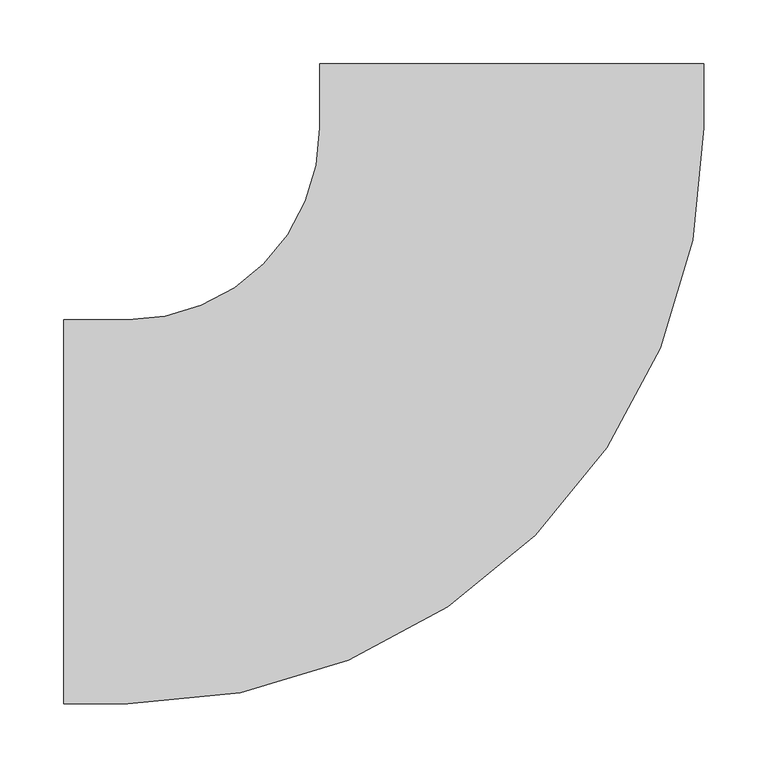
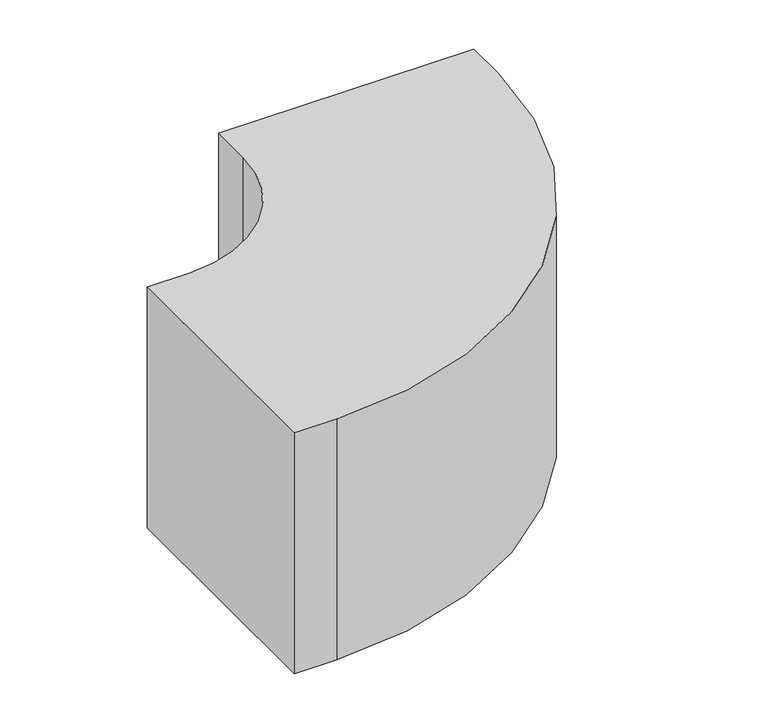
"""IFC4 building model written with IfcOpenShell, lengths in millimetres: duct fitting geometry, Отвод прямоугольного сечения : Стандартное."""

from ifc_helpers import new_model, si_unit, point, frame, frame_2d, origin, place, context, project, spatial, polyline, circle_curve, trimmed, segment, composite_curve, outline, extrude, source, transform, mapped, element, save


def duct_fitting_99cd3f61(model_context):
    return source(origin(), model_context, "Body", "SweptSolid", [
        extrude(outline(composite_curve([segment(polyline([(-350.0, -150.0), (-350.0, 150.0), (-300.0, 150.0)]), True, "CONTINUOUS"), segment(trimmed(circle_curve(frame_2d((-300.0, 300.0)), 150.0), [point((-300.0, 150.0))], [point((-150.0, 300.0))], True, "CARTESIAN"), True, "CONTINUOUS"), segment(polyline([(-150.0, 300.0), (-150.0, 350.0), (150.0, 350.0), (150.0, 300.0)]), True, "CONTINUOUS"), segment(trimmed(circle_curve(frame_2d((-300.0, 300.0)), 450.0), [point((150.0, 300.0))], [point((-300.0, -150.0))], False, "CARTESIAN"), True, "CONTINUOUS"), segment(polyline([(-300.0, -150.0), (-350.0, -150.0)]), True, "CONTINUOUS")], self_intersect=False)), frame((0.0, 0.0, -150.0), z_axis=(0.0, 0.0, 1.0), x_axis=(1.0, 0.0, 0.0)), (0.0, 0.0, 1.0), 300.0),
    ])


if __name__ == "__main__":
    model = new_model("IFC4")
    model_context = context("Model", 3, world=origin())
    ifc_project = project(units=[si_unit("LENGTHUNIT", "METRE", prefix="MILLI")], contexts=[model_context])
    site = spatial("IfcSite", under=ifc_project)
    building = spatial("IfcBuilding", under=site)
    placement = place(None, origin())
    duct_fitting_shape = duct_fitting_99cd3f61(model_context)
    element("IfcDuctFitting", 1, ObjectType="Отвод прямоугольного сечения : Стандартное", at=placement, inside=building, context=model_context, shape_type="MappedRepresentation", body=[
        mapped(duct_fitting_shape, transform((0.0, 0.0, 0.0), x_axis=(1.0, 0.0, 0.0), y_axis=(0.0, 1.0, 0.0), z_axis=(0.0, 0.0, 1.0))),
    ])
    save(model, "model.ifc")
